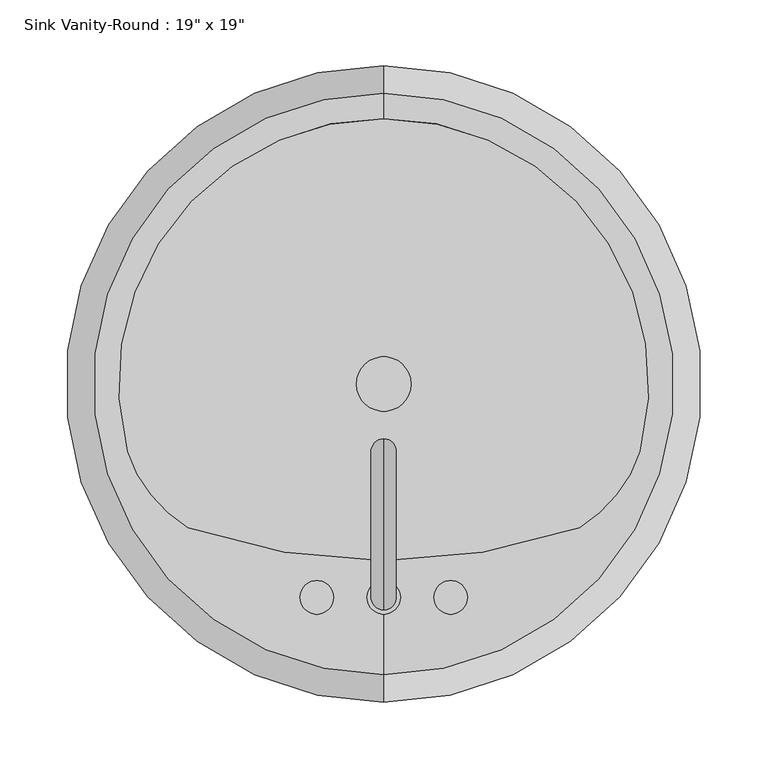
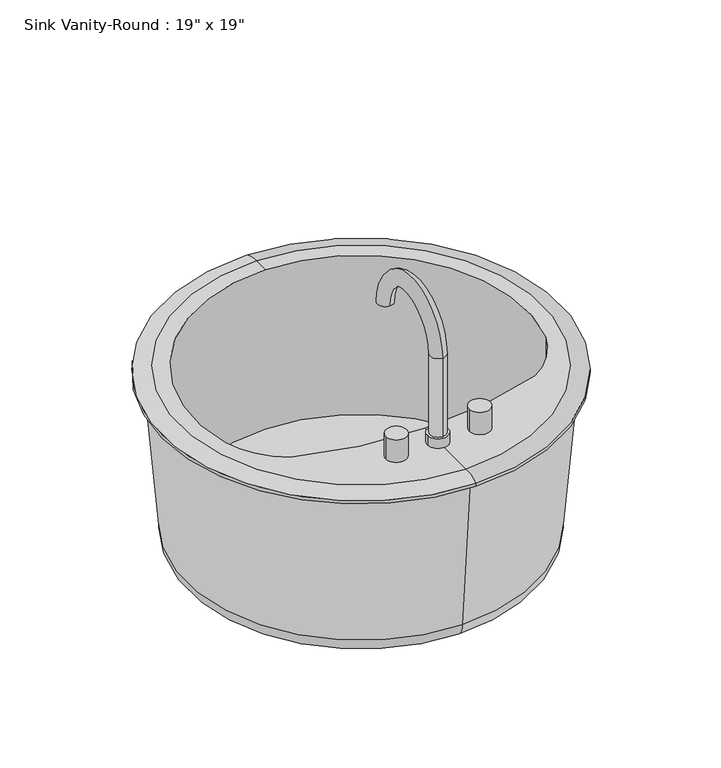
"""IFC4 building model written with IfcOpenShell, lengths in millimetres: flow terminal geometry."""

from ifc_helpers import new_model, si_unit, point, frame, frame_2d, origin, place, context, project, spatial, polyline, circle_curve, ellipse_curve, trimmed, segment, composite_curve, outline, extrude, source, transform, mapped, element, save
from ifc_brep_helpers import plane_surface, cylinder_surface, revolved_surface, advanced_brep


def flow_terminal_951b6bfb(model_context):
    return source(origin(), model_context, "Body", "SolidModel", [
        advanced_brep(
        [(83.9517406, -247.0927185, 796.925), (109.3517406, -247.0927185, 796.925), (96.6517406, -237.5677185, 909.6375), (96.6517406, -237.5677185, 809.1602909), (96.6517406, -256.6177185, 809.1602909), (96.6517406, -256.6177185, 909.6375), (96.6517406, -145.7775038, 909.6375), (96.6517406, -126.7275038, 909.6375), (83.9517406, -247.0927185, 809.1602909), (109.3517406, -247.0927185, 809.1602909)],
        [
            (0, 1, circle_curve(frame((96.6517406, -247.0927185, 796.925), z_axis=(0.0, 0.0, -1.0), x_axis=(1.0, 0.0, 0.0)), 12.7)),
            (1, 0, circle_curve(frame((96.6517406, -247.0927185, 796.925), z_axis=(0.0, 0.0, -1.0), x_axis=(1.0, 0.0, 0.0)), 12.7)),
            (2, 3),
            (3, 4, circle_curve(frame((96.6517406, -247.0927185, 809.1602909), z_axis=(0.0, 0.0, 1.0), x_axis=(0.0, -1.0, 0.0)), 9.525)),
            (4, 5),
            (5, 2, circle_curve(frame((96.6517406, -247.0927185, 909.6375), z_axis=(0.0, 0.0, -1.0), x_axis=(0.0, -1.0, 0.0)), 9.525)),
            (4, 3, circle_curve(frame((96.6517406, -247.0927185, 809.1602909), z_axis=(0.0, 0.0, 1.0), x_axis=(0.0, -1.0, 0.0)), 9.525)),
            (2, 5, circle_curve(frame((96.6517406, -247.0927185, 909.6375), z_axis=(0.0, 0.0, -1.0), x_axis=(0.0, -1.0, 0.0)), 9.525)),
            (6, 7, circle_curve(frame((96.6517406, -136.2525038, 909.6375), z_axis=(0.0, 0.0, -1.0), x_axis=(0.0, 1.0, 0.0)), 9.525)),
            (7, 6, circle_curve(frame((96.6517406, -136.2525038, 909.6375), z_axis=(0.0, 0.0, -1.0), x_axis=(0.0, 1.0, 0.0)), 9.525)),
            (5, 7, circle_curve(frame((96.6517406, -191.6726112, 909.6375), z_axis=(-1.0, 0.0, 0.0), x_axis=(0.0, -1.0, 0.0)), 64.9451073)),
            (6, 2, circle_curve(frame((96.6517406, -191.6726112, 909.6375), z_axis=(1.0, 0.0, 0.0), x_axis=(0.0, -1.0, 0.0)), 45.8951073)),
            (8, 9, circle_curve(frame((96.6517406, -247.0927185, 809.1602909), z_axis=(0.0, 0.0, 1.0), x_axis=(1.0, 0.0, 0.0)), 12.7)),
            (9, 8, circle_curve(frame((96.6517406, -247.0927185, 809.1602909), z_axis=(0.0, 0.0, 1.0), x_axis=(1.0, 0.0, 0.0)), 12.7)),
            (9, 1),
            (0, 8),
        ],
        [
            plane_surface(frame((96.6517406, -237.5677185, 796.925), z_axis=(0.0, 0.0, -1.0), x_axis=(1.0, 0.0, 0.0))),
            cylinder_surface(frame((96.6517406, -247.0927185, 796.925), z_axis=(0.0, 0.0, -1.0), x_axis=(0.0, -1.0, 0.0)), 9.525),
            plane_surface(frame((96.6517406, -191.6726112, 909.6375), z_axis=(0.0, 0.0, -1.0), x_axis=(0.0, 1.0, 0.0))),
            revolved_surface(trimmed(ellipse_curve(frame((96.6517406, -247.0927185, 909.6375), z_axis=(0.0, 0.0, 1.0), x_axis=(0.0, -1.0, 0.0)), 9.525, 9.525), [point((96.6517406, -237.5677185, 909.6375))], [point((96.6517406, -256.6177185, 909.6375))], True, "CARTESIAN"), (96.6517406, -191.6726112, 909.6375), (1.0, 0.0, 0.0)),
            revolved_surface(trimmed(ellipse_curve(frame((96.6517406, -247.0927185, 909.6375), z_axis=(0.0, 0.0, 1.0), x_axis=(0.0, -1.0, 0.0)), 9.525, 9.525), [point((96.6517406, -256.6177185, 909.6375))], [point((96.6517406, -237.5677185, 909.6375))], True, "CARTESIAN"), (96.6517406, -191.6726112, 909.6375), (1.0, 0.0, 0.0)),
            plane_surface(frame((109.3517406, -247.0927185, 809.1602909), z_axis=(0.0, 0.0, 1.0), x_axis=(0.0, -1.0, 0.0))),
            cylinder_surface(frame((96.6517406, -247.0927185, 796.925), z_axis=(0.0, 0.0, 1.0), x_axis=(1.0, 0.0, 0.0)), 12.7),
        ],
        [
            (0, [[1, 2]]),
            (1, [[3, 4, 5, 6]]),
            (1, [[-5, 7, -3, 8]]),
            (2, [[9, 10]]),
            (3, [[11, -9, 12, -6]]),
            (4, [[-12, -10, -11, -8]]),
            (5, [[13, 14], [-7, -4]]),
            (6, [[15, -1, 16, -14]]),
            (6, [[-16, -2, -15, -13]]),
        ],
    ),
        extrude(outline(composite_curve([segment(trimmed(circle_curve(frame_2d((45.8517406, -247.0927185)), 12.7), [point((33.1517406, -247.0927185))], [point((58.5517406, -247.0927185))], False, "CARTESIAN"), True, "CONTINUOUS"), segment(trimmed(circle_curve(frame_2d((45.8517406, -247.0927185)), 12.7), [point((58.5517406, -247.0927185))], [point((33.1517406, -247.0927185))], False, "CARTESIAN"), True, "CONTINUOUS")], self_intersect=False)), frame((0.0, 0.0, 796.925), z_axis=(0.0, 0.0, 1.0), x_axis=(1.0, 0.0, 0.0)), (0.0, 0.0, 1.0), 28.575),
        extrude(outline(composite_curve([segment(trimmed(circle_curve(frame_2d((147.4517406, -247.0927185)), 12.7), [point((134.7517406, -247.0927185))], [point((160.1517406, -247.0927185))], False, "CARTESIAN"), True, "CONTINUOUS"), segment(trimmed(circle_curve(frame_2d((147.4517406, -247.0927185)), 12.7), [point((160.1517406, -247.0927185))], [point((134.7517406, -247.0927185))], False, "CARTESIAN"), True, "CONTINUOUS")], self_intersect=False)), frame((0.0, 0.0, 796.925), z_axis=(0.0, 0.0, 1.0), x_axis=(1.0, 0.0, 0.0)), (0.0, 0.0, 1.0), 28.575),
        extrude(outline(composite_curve([segment(trimmed(circle_curve(frame_2d((96.6517406, -85.1677185)), 20.6375), [point((76.0142406, -85.1677185))], [point((117.2892406, -85.1677185))], False, "CARTESIAN"), True, "CONTINUOUS"), segment(trimmed(circle_curve(frame_2d((96.6517406, -85.1677185)), 20.6375), [point((117.2892406, -85.1677185))], [point((76.0142406, -85.1677185))], False, "CARTESIAN"), True, "CONTINUOUS")], self_intersect=False)), frame((0.0, 0.0, 571.5), z_axis=(0.0, 0.0, 1.0), x_axis=(1.0, 0.0, 0.0)), (0.0, 0.0, 1.0), 21.1842611),
        advanced_brep(
        [(96.6517406, 135.3870093, 796.925), (96.6517406, 156.1322815, 791.36875), (96.6517406, -326.4677185, 791.36875), (96.6517406, -305.7224463, 796.925), (96.6517406, -219.2662048, 796.925), (-52.1534933, -194.0861398, 796.925), (-98.1703414, -136.2525038, 796.925), (96.6517406, 116.2405705, 796.925), (291.4738225, -136.2525038, 796.925), (245.4569744, -194.0861398, 796.925), (96.6517406, 107.1264028, 571.5), (96.6517406, -85.1677185, 571.5), (96.6517406, -277.4618398, 571.5), (96.6517406, -298.0181731, 592.6842611), (96.6517406, 127.6827361, 592.6842611), (96.6517406, -314.5614685, 787.4), (96.6517406, 144.2260315, 787.4), (96.6517406, -326.4677185, 787.4), (96.6517406, 156.1322815, 787.4), (245.4569744, -194.0861398, 592.6842611), (291.4738225, -136.2525038, 592.6842611), (-98.1703414, -136.2525038, 592.6842611), (-52.1534933, -194.0861398, 592.6842611)],
        [
            (0, 1, circle_curve(frame((96.6517406, 139.1020246, 769.289434), z_axis=(-1.0, 0.0, 0.0), x_axis=(0.0, 1.0, 0.0)), 27.8841505)),
            (1, 2, circle_curve(frame((96.6517406, -85.1677185, 791.36875), z_axis=(0.0, 0.0, 1.0), x_axis=(0.0, -1.0, 0.0)), 241.3)),
            (2, 3, circle_curve(frame((96.6517406, -309.4374616, 769.289434), z_axis=(-1.0, 0.0, 0.0), x_axis=(0.0, -1.0, 0.0)), 27.8841505)),
            (3, 0, circle_curve(frame((96.6517406, -85.1677185, 796.925), z_axis=(0.0, 0.0, -1.0), x_axis=(0.0, -1.0, 0.0)), 220.5547278)),
            (2, 1, circle_curve(frame((96.6517406, -85.1677185, 791.36875), z_axis=(0.0, 0.0, 1.0), x_axis=(0.0, -1.0, 0.0)), 241.3)),
            (0, 3, circle_curve(frame((96.6517406, -85.1677185, 796.925), z_axis=(0.0, 0.0, -1.0), x_axis=(0.0, -1.0, 0.0)), 220.5547278)),
            (3, 4),
            (4, 5, circle_curve(frame((96.6517406, 233.0168462, 796.925), z_axis=(0.0, 0.0, -1.0), x_axis=(1.0, 0.0, 0.0)), 452.283051)),
            (5, 6, circle_curve(frame((1.3689689, -104.2755165, 796.925), z_axis=(0.0, 0.0, -1.0), x_axis=(1.0, 0.0, 0.0)), 104.5495194)),
            (6, 7, circle_curve(frame((96.6517406, -85.1677185, 796.925), z_axis=(0.0, 0.0, -1.0), x_axis=(1.0, 0.0, 0.0)), 201.408289)),
            (7, 0),
            (7, 8, circle_curve(frame((96.6517406, -85.1677185, 796.925), z_axis=(0.0, 0.0, -1.0), x_axis=(1.0, 0.0, 0.0)), 201.408289)),
            (8, 9, circle_curve(frame((191.9345122, -104.2755165, 796.925), z_axis=(0.0, 0.0, -1.0), x_axis=(1.0, 0.0, 0.0)), 104.5495194)),
            (9, 4, circle_curve(frame((96.6517406, 233.0168462, 796.925), z_axis=(0.0, 0.0, -1.0), x_axis=(1.0, 0.0, 0.0)), 452.283051)),
            (10, 11),
            (11, 12),
            (12, 10, circle_curve(frame((96.6517406, -85.1677185, 571.5), z_axis=(0.0, 0.0, -1.0), x_axis=(0.0, -1.0, 0.0)), 192.2941213)),
            (10, 12, circle_curve(frame((96.6517406, -85.1677185, 571.5), z_axis=(0.0, 0.0, -1.0), x_axis=(0.0, -1.0, 0.0)), 192.2941213)),
            (12, 13, circle_curve(frame((96.6517406, -277.4618398, 592.0656396), z_axis=(-1.0, 0.0, 0.0), x_axis=(0.0, -1.0, 0.0)), 20.5656396)),
            (13, 14, circle_curve(frame((96.6517406, -85.1677185, 592.6842611), z_axis=(0.0, 0.0, -1.0), x_axis=(0.0, -1.0, 0.0)), 212.8504546)),
            (14, 10, circle_curve(frame((96.6517406, 107.1264028, 592.0656396), z_axis=(-1.0, 0.0, 0.0), x_axis=(0.0, 1.0, 0.0)), 20.5656396)),
            (14, 13, circle_curve(frame((96.6517406, -85.1677185, 592.6842611), z_axis=(0.0, 0.0, -1.0), x_axis=(0.0, -1.0, 0.0)), 212.8504546)),
            (13, 15),
            (15, 16, circle_curve(frame((96.6517406, -85.1677185, 787.4), z_axis=(0.0, 0.0, -1.0), x_axis=(0.0, -1.0, 0.0)), 229.39375)),
            (16, 14),
            (16, 15, circle_curve(frame((96.6517406, -85.1677185, 787.4), z_axis=(0.0, 0.0, -1.0), x_axis=(0.0, -1.0, 0.0)), 229.39375)),
            (15, 17),
            (17, 18, circle_curve(frame((96.6517406, -85.1677185, 787.4), z_axis=(0.0, 0.0, -1.0), x_axis=(0.0, -1.0, 0.0)), 241.3)),
            (18, 16),
            (18, 17, circle_curve(frame((96.6517406, -85.1677185, 787.4), z_axis=(0.0, 0.0, -1.0), x_axis=(0.0, -1.0, 0.0)), 241.3)),
            (1, 18),
            (17, 2),
            (19, 20, circle_curve(frame((191.9345122, -104.2755165, 592.6842611), z_axis=(0.0, 0.0, 1.0), x_axis=(1.0, 0.0, 0.0)), 104.5495194)),
            (20, 21, circle_curve(frame((96.6517406, -85.1677185, 592.6842611), z_axis=(0.0, 0.0, 1.0), x_axis=(1.0, 0.0, 0.0)), 201.408289)),
            (21, 22, circle_curve(frame((1.3689689, -104.2755165, 592.6842611), z_axis=(0.0, 0.0, 1.0), x_axis=(1.0, 0.0, 0.0)), 104.5495194)),
            (22, 19, circle_curve(frame((96.6517406, 233.0168462, 592.6842611), z_axis=(0.0, 0.0, 1.0), x_axis=(1.0, 0.0, 0.0)), 452.283051)),
            (22, 5),
            (9, 19),
            (21, 6),
            (20, 8),
        ],
        [
            revolved_surface(trimmed(ellipse_curve(frame((96.6517406, -309.4374616, 769.289434), z_axis=(-1.0, 0.0, 0.0), x_axis=(0.0, -1.0, 0.0)), 27.8841505, 27.8841505), [point((96.6517406, -326.4677185, 791.36875))], [point((96.6517406, -305.7224463, 796.925))], True, "CARTESIAN"), (96.6517406, -85.1677185, 796.925), (0.0, 0.0, 1.0)),
            plane_surface(frame((96.6517406, -85.1677185, 796.925), z_axis=(0.0, 0.0, 1.0), x_axis=(0.0, -1.0, 0.0))),
            plane_surface(frame((96.6517406, -85.1677185, 571.5), z_axis=(0.0, 0.0, -1.0), x_axis=(0.0, -1.0, 0.0))),
            revolved_surface(trimmed(ellipse_curve(frame((96.6517406, -277.4618398, 592.0656396), z_axis=(-1.0, 0.0, 0.0), x_axis=(0.0, -1.0, 0.0)), 20.5656396, 20.5656396), [point((96.6517406, -277.4618398, 571.5))], [point((96.6517406, -298.0181731, 592.6842611))], True, "CARTESIAN"), (96.6517406, -85.1677185, 796.925), (0.0, 0.0, 1.0)),
            revolved_surface(polyline([(96.6517406, -298.0181731, 592.6842611), (96.6517406, -314.5614685, 787.4)]), (96.6517406, -85.1677185, 796.925), (0.0, 0.0, 1.0)),
            plane_surface(frame((96.6517406, -85.1677185, 787.4), z_axis=(0.0, 0.0, -1.0), x_axis=(0.0, -1.0, 0.0))),
            cylinder_surface(frame((96.6517406, -85.1677185, 796.925), z_axis=(0.0, 0.0, 1.0), x_axis=(0.0, -1.0, 0.0)), 241.3),
            plane_surface(frame((548.9347916, 233.0168462, 592.6842611), z_axis=(0.0, 0.0, 1.0), x_axis=(0.0, 1.0, 0.0))),
            revolved_surface(polyline([(548.9347916, 233.0168462, 796.925), (548.9347916, 233.0168462, 592.6842611)]), (96.6517406, 233.0168462, 592.6842611), (0.0, 0.0, 1.0)),
            revolved_surface(polyline([(105.91848829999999, -104.2755165, 796.925), (105.91848829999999, -104.2755165, 592.6842611)]), (1.3689689, -104.2755165, 592.6842611), (0.0, 0.0, 1.0)),
            revolved_surface(polyline([(298.0600296, -85.1677185, 796.925), (298.0600296, -85.1677185, 592.6842611)]), (96.6517406, -85.1677185, 592.6842611), (0.0, 0.0, 1.0)),
            revolved_surface(polyline([(296.4840316, -104.2755165, 796.925), (296.4840316, -104.2755165, 592.6842611)]), (191.9345122, -104.2755165, 592.6842611), (0.0, 0.0, 1.0)),
        ],
        [
            (0, [[1, 2, 3, 4]]),
            (0, [[5, -1, 6, -3]]),
            (1, [[7, 8, 9, 10, 11, -4]]),
            (1, [[-11, 12, 13, 14, -7, -6]]),
            (2, [[15, 16, 17]]),
            (2, [[-15, 18, -16]]),
            (3, [[19, 20, 21, -17]]),
            (3, [[-21, 22, -19, -18]]),
            (4, [[23, 24, 25, -20]]),
            (4, [[-25, 26, -23, -22]]),
            (5, [[27, 28, 29, -24]]),
            (5, [[-29, 30, -27, -26]]),
            (6, [[31, -28, 32, -2]]),
            (6, [[-32, -30, -31, -5]]),
            (7, [[33, 34, 35, 36]]),
            (8, [[37, -8, -14, 38, -36]]),
            (9, [[39, -9, -37, -35]]),
            (10, [[40, -12, -10, -39, -34]]),
            (11, [[-38, -13, -40, -33]]),
        ],
    ),
    ])


if __name__ == "__main__":
    model = new_model("IFC4")
    model_context = context("Model", 3, world=origin())
    ifc_project = project(units=[si_unit("LENGTHUNIT", "METRE", prefix="MILLI")], contexts=[model_context])
    site = spatial("IfcSite", under=ifc_project)
    building = spatial("IfcBuilding", under=site)
    placement = place(None, origin())
    flow_terminal_shape = flow_terminal_951b6bfb(model_context)
    element("IfcFlowTerminal", 1, ObjectType="Sink Vanity-Round : 19\" x 19\"", at=placement, inside=building, context=model_context, shape_type="MappedRepresentation", body=[
        mapped(flow_terminal_shape, transform((0.0, 0.0, 0.0), x_axis=(1.0, 0.0, 0.0), y_axis=(0.0, 1.0, 0.0), z_axis=(0.0, 0.0, 1.0))),
    ])
    save(model, "model.ifc")
